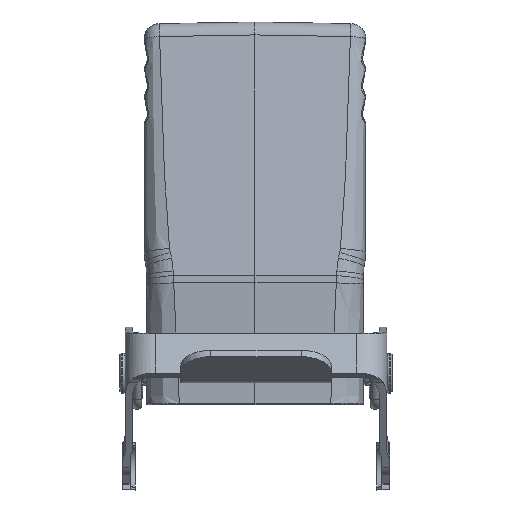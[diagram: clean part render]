
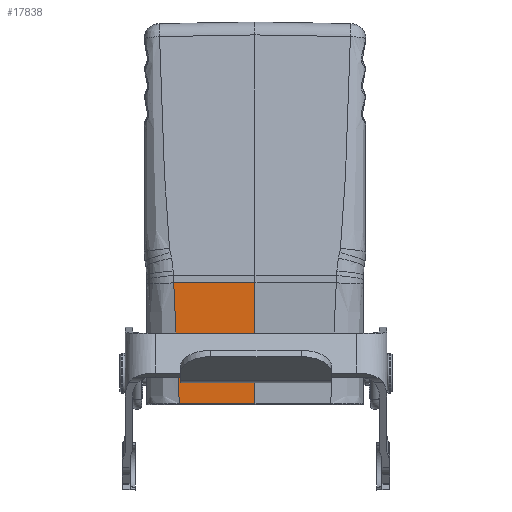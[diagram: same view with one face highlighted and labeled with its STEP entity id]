
A CAD part, left-side view. The second image highlights one B-rep face of the part: STEP entity #17838.
In plain terms, the highlighted planar face has unit normal (-1, 0.018, 0).
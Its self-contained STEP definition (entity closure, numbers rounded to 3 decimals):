
#1395 = AXIS2_PLACEMENT_3D ( 'NONE', #3293, #13800, #11436 ) ;
#1663 = B_SPLINE_CURVE_WITH_KNOTS ( 'NONE', 3,
 ( #24754, #14664, #19653, #4151, #25197, #24867, #4255, #30213, #22381, #32569, #9697, #1674, #19879, #9257, #4365, #19770, #27772, #9468, #27545, #14770, #22495, #16930 ),
 .UNSPECIFIED., .F., .F.,
 ( 4, 2, 2, 2, 1, 1, 1, 1, 1, 1, 2, 2, 2, 4 ),
 ( 0., 0.25, 0.375, 0.437, 0.469, 0.484, 0.492, 0.496, 0.498, 0.499, 0.5, 0.5, 0.75, 1. ),
 .UNSPECIFIED. ) ;
#1674 = CARTESIAN_POINT ( 'NONE',  ( -1.414, 55.253, 33.534 ) ) ;
#2597 = CARTESIAN_POINT ( 'NONE',  ( -1.682, 39.889, 21.623 ) ) ;
#3293 = CARTESIAN_POINT ( 'NONE',  ( -1.687, 39.566, 46.071 ) ) ;
#4151 = CARTESIAN_POINT ( 'NONE',  ( -1.416, 55.122, 29.594 ) ) ;
#4255 = CARTESIAN_POINT ( 'NONE',  ( -1.414, 55.203, 32.162 ) ) ;
#4365 = CARTESIAN_POINT ( 'NONE',  ( -1.414, 55.255, 33.598 ) ) ;
#6334 = PLANE ( 'NONE',  #1395 ) ;
#7412 = CARTESIAN_POINT ( 'NONE',  ( -1.42, 54.912, 21.623 ) ) ;
#7694 = VERTEX_POINT ( 'NONE', #2597 ) ;
#8462 = CARTESIAN_POINT ( 'NONE',  ( -1.494, 50.649, 45.578 ) ) ;
#8506 = ORIENTED_EDGE ( 'NONE', *, *, #20944, .F. ) ;
#8524 = ORIENTED_EDGE ( 'NONE', *, *, #19825, .F. ) ;
#8525 = CARTESIAN_POINT ( 'NONE',  ( -1.4, 56.03, 45.571 ) ) ;
#9093 = EDGE_CURVE ( 'NONE', #15614, #28779, #1663, .T. ) ;
#9257 = CARTESIAN_POINT ( 'NONE',  ( -1.414, 55.255, 33.59 ) ) ;
#9468 = CARTESIAN_POINT ( 'NONE',  ( -1.412, 55.347, 36.02 ) ) ;
#9697 = CARTESIAN_POINT ( 'NONE',  ( -1.414, 55.25, 33.46 ) ) ;
#10264 = CARTESIAN_POINT ( 'NONE',  ( -1.507, 49.904, 21.623 ) ) ;
#10945 = CARTESIAN_POINT ( 'NONE',  ( -1.682, 39.889, 45.592 ) ) ;
#11436 = DIRECTION ( 'NONE',  ( 0.017, 1., 0. ) ) ;
#13188 = EDGE_LOOP ( 'NONE', ( #32081, #8524, #8506, #27561 ) ) ;
#13800 = DIRECTION ( 'NONE',  ( 1., -0.017, 0. ) ) ;
#14664 = CARTESIAN_POINT ( 'NONE',  ( -1.418, 54.987, 24.274 ) ) ;
#14770 = CARTESIAN_POINT ( 'NONE',  ( -1.405, 55.72, 42.211 ) ) ;
#15614 = VERTEX_POINT ( 'NONE', #7412 ) ;
#16930 = CARTESIAN_POINT ( 'NONE',  ( -1.4, 56.03, 45.571 ) ) ;
#17838 = ADVANCED_FACE ( 'NONE', ( #31436 ), #6334, .F. ) ;
#19653 = CARTESIAN_POINT ( 'NONE',  ( -1.417, 55.04, 26.598 ) ) ;
#19699 = LINE ( 'NONE', #26039, #22981 ) ;
#19770 = CARTESIAN_POINT ( 'NONE',  ( -1.414, 55.255, 33.603 ) ) ;
#19825 = EDGE_CURVE ( 'NONE', #23925, #7694, #19699, .T. ) ;
#19879 = CARTESIAN_POINT ( 'NONE',  ( -1.414, 55.254, 33.571 ) ) ;
#20944 = EDGE_CURVE ( 'NONE', #28779, #23925, #26536, .T. ) ;
#22381 = CARTESIAN_POINT ( 'NONE',  ( -1.414, 55.233, 33.002 ) ) ;
#22495 = CARTESIAN_POINT ( 'NONE',  ( -1.403, 55.872, 43.996 ) ) ;
#22981 = VECTOR ( 'NONE', #23572, 1000. ) ;
#23293 = B_SPLINE_CURVE_WITH_KNOTS ( 'NONE', 3,
 ( #25867, #28536, #10264, #28423 ),
 .UNSPECIFIED., .F., .F.,
 ( 4, 4 ),
 ( 0., 1. ),
 .UNSPECIFIED. ) ;
#23572 = DIRECTION ( 'NONE',  ( 0., 0., -1. ) ) ;
#23925 = VERTEX_POINT ( 'NONE', #32780 ) ;
#24754 = CARTESIAN_POINT ( 'NONE',  ( -1.42, 54.912, 21.623 ) ) ;
#24867 = CARTESIAN_POINT ( 'NONE',  ( -1.415, 55.19, 31.765 ) ) ;
#25197 = CARTESIAN_POINT ( 'NONE',  ( -1.415, 55.15, 30.511 ) ) ;
#25867 = CARTESIAN_POINT ( 'NONE',  ( -1.682, 39.889, 21.623 ) ) ;
#26039 = CARTESIAN_POINT ( 'NONE',  ( -1.682, 39.889, 46.071 ) ) ;
#26436 = CARTESIAN_POINT ( 'NONE',  ( -1.4, 56.03, 45.571 ) ) ;
#26536 = B_SPLINE_CURVE_WITH_KNOTS ( 'NONE', 3,
 ( #26436, #8462, #31318, #10945 ),
 .UNSPECIFIED., .F., .F.,
 ( 4, 4 ),
 ( 0., 1. ),
 .UNSPECIFIED. ) ;
#27545 = CARTESIAN_POINT ( 'NONE',  ( -1.41, 55.458, 38.223 ) ) ;
#27561 = ORIENTED_EDGE ( 'NONE', *, *, #9093, .F. ) ;
#27772 = CARTESIAN_POINT ( 'NONE',  ( -1.414, 55.255, 33.603 ) ) ;
#28423 = CARTESIAN_POINT ( 'NONE',  ( -1.42, 54.912, 21.623 ) ) ;
#28536 = CARTESIAN_POINT ( 'NONE',  ( -1.594, 44.896, 21.623 ) ) ;
#28779 = VERTEX_POINT ( 'NONE', #8525 ) ;
#30213 = CARTESIAN_POINT ( 'NONE',  ( -1.414, 55.223, 32.727 ) ) ;
#31318 = CARTESIAN_POINT ( 'NONE',  ( -1.588, 45.269, 45.585 ) ) ;
#31436 = FACE_OUTER_BOUND ( 'NONE', #13188, .T. ) ;
#32081 = ORIENTED_EDGE ( 'NONE', *, *, #32981, .F. ) ;
#32569 = CARTESIAN_POINT ( 'NONE',  ( -1.414, 55.244, 33.31 ) ) ;
#32780 = CARTESIAN_POINT ( 'NONE',  ( -1.682, 39.889, 45.592 ) ) ;
#32981 = EDGE_CURVE ( 'NONE', #7694, #15614, #23293, .T. ) ;
